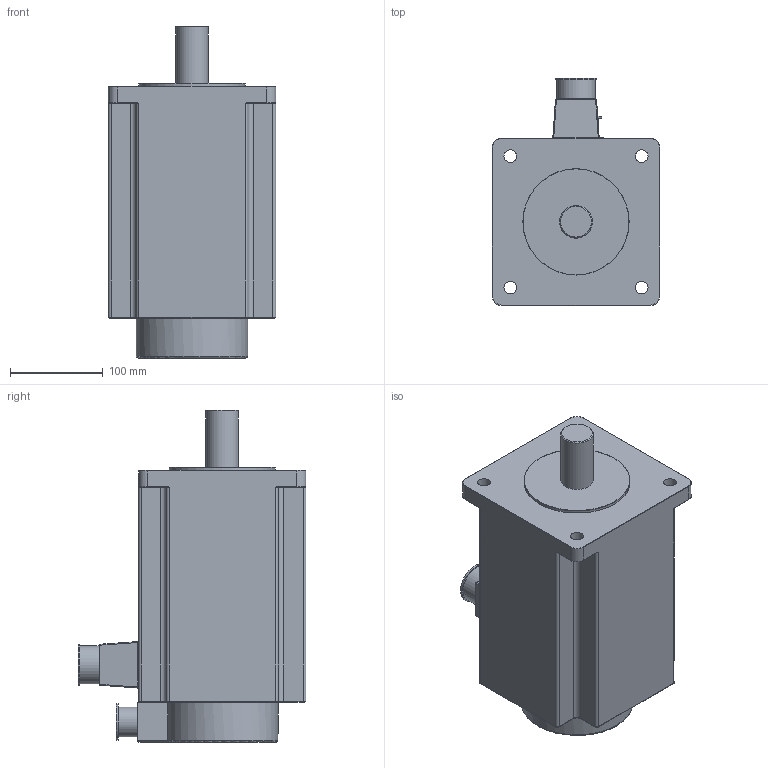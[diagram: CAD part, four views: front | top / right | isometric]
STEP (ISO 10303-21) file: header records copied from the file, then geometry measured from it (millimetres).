
FILE_DESCRIPTION(/* description */ (''),/* implementation_level */ '2;1');
FILE_NAME(/* name */ '180MAH35015.stp',/* time_stamp */ '2019-11-22T13:56:59+08:00',/* author */ (''),/* organization */ (''),/* preprocessor_version */ 'ST-DEVELOPER v16',/* originating_system */ 'SIEMENS PLM Software NX 10.0',/* authorisation */ '');
FILE_SCHEMA (('CONFIG_CONTROL_DESIGN'));
Length unit declared in the file: millimetre
Products named in the file (1): 180MAH35015
Bounding box: 180 x 245 x 357.01 mm (x, y, z)
Volume: 8010672.3 mm3; surface area: 283198 mm2
Topology: 1 solids, 1 shells, 160 faces, 365 edges, 207 vertices
Faces by surface type: cylinder 74, plane 34, torus 34, bspline 12, sphere 4, cone 2
Full cylindrical faces by diameter (mm): 13.5 x4, 32 x1, 35 x1, 39 x1, 41 x1, 44 x1, 114.3 x1
Entity records: 4538 total; most frequent: CARTESIAN_POINT 943, DIRECTION 801, ORIENTED_EDGE 676, EDGE_CURVE 338, AXIS2_PLACEMENT_3D 334, VERTEX_POINT 201, EDGE_LOOP 189, CIRCLE 175
